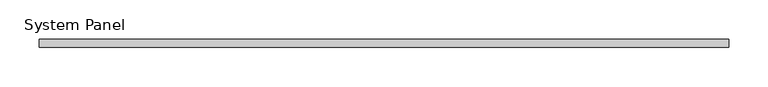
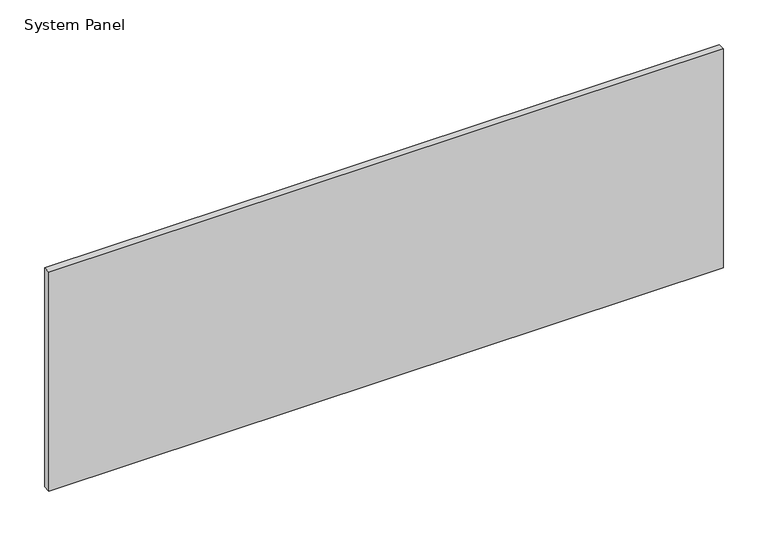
"""IFC4 building model written with IfcOpenShell, lengths in millimetres: plate geometry, System Panel : стекло_смещение_0."""

from ifc_helpers import new_model, si_unit, origin, origin_with_axes, place, context, project, spatial, polyline, outline, extrude, source, transform, mapped, element, save


def system_panel_a1f38a2a(model_context):
    return source(origin(), model_context, "Body", "SweptSolid", [
        extrude(outline(polyline([(437.5, -5.0), (-437.5, -5.0), (-437.5, 5.0), (437.5, 5.0), (437.5, -5.0)])), origin_with_axes(), (0.0, 0.0, 1.0), 300.0),
    ])


if __name__ == "__main__":
    model = new_model("IFC4")
    model_context = context("Model", 3, world=origin())
    ifc_project = project(units=[si_unit("LENGTHUNIT", "METRE", prefix="MILLI")], contexts=[model_context])
    site = spatial("IfcSite", under=ifc_project)
    building = spatial("IfcBuilding", under=site)
    placement = place(None, origin())
    system_panel_shape = system_panel_a1f38a2a(model_context)
    element("IfcPlate", 1, ObjectType="System Panel : стекло_смещение_0", at=placement, inside=building, context=model_context, shape_type="MappedRepresentation", body=[
        mapped(system_panel_shape, transform((0.0, 0.0, 0.0), x_axis=(1.0, 0.0, 0.0), y_axis=(0.0, 1.0, 0.0), z_axis=(0.0, 0.0, 1.0))),
    ])
    save(model, "model.ifc")
